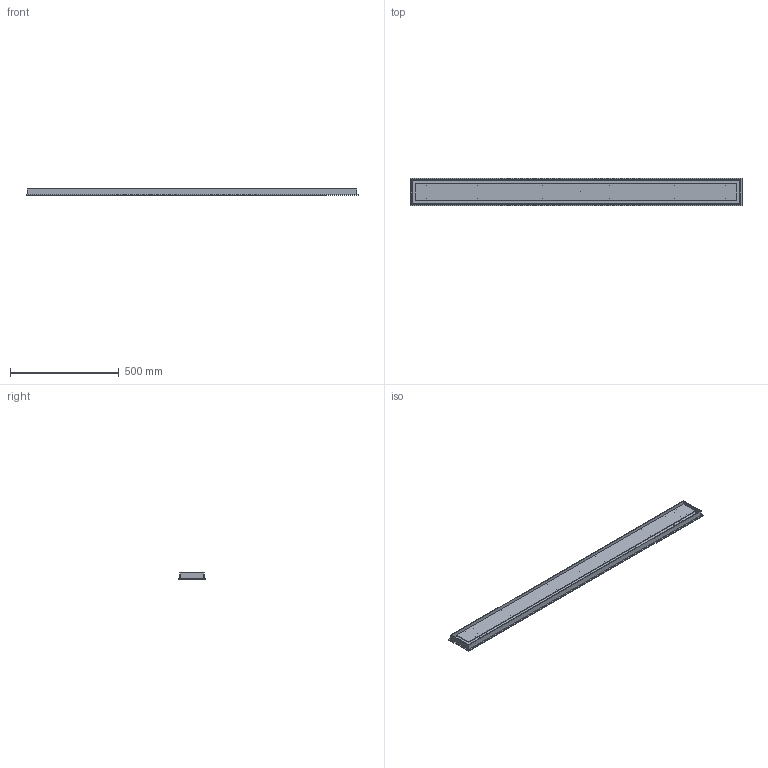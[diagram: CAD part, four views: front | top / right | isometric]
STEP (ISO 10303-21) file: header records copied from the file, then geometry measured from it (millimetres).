
FILE_DESCRIPTION(/* description */ (''),/* implementation_level */ '2;1');
FILE_NAME(/* name */ 'SkLO_Linear_Canopy_5''_MCL05_3D',/* time_stamp */ '2024-10-18T16:39:35+02:00',/* author */ (''),/* organization */ (''),/* preprocessor_version */ 'ST-DEVELOPER v16.5',/* originating_system */ 'Rhino 7.34',/* authorisation */ '');
FILE_SCHEMA (('CONFIG_CONTROL_DESIGN'));
Length unit declared in the file: millimetre
Products named in the file (1): Document
Bounding box: 1525 x 127 x 28.3 mm (x, y, z)
Volume: 1172879.6 mm3; surface area: 808931.6 mm2
Topology: 2 solids, 8 shells, 173 faces, 439 edges, 289 vertices
Faces by surface type: cylinder 71, plane 64, bspline 38
Full cylindrical faces by diameter (mm): 3 x16, 5.249 x6, 6 x12, 6.2 x18, 10 x6, 40 x1
Entity records: 7863 total; most frequent: CARTESIAN_POINT 4985, ORIENTED_EDGE 832, EDGE_CURVE 419, VERTEX_POINT 270, EDGE_LOOP 241, B_SPLINE_CURVE_WITH_KNOTS 177, ADVANCED_FACE 173, FACE_OUTER_BOUND 173
